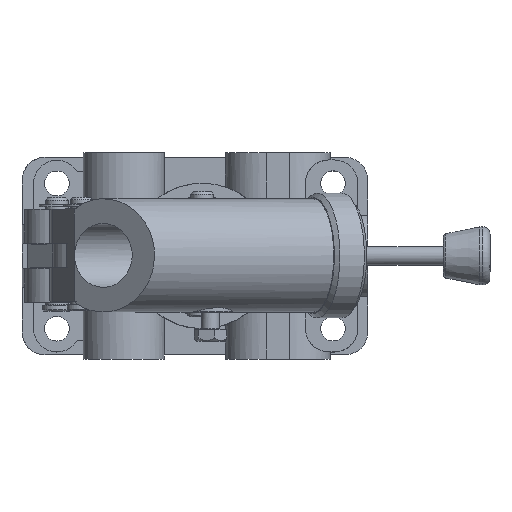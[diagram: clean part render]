
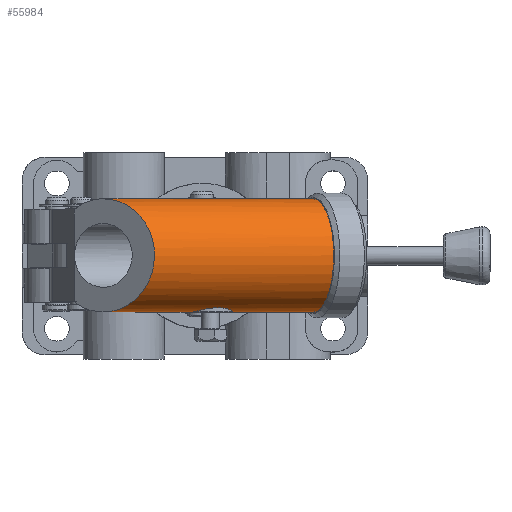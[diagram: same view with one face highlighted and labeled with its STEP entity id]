
A CAD part, top view. The second image highlights one B-rep face of the part: STEP entity #55984.
In plain terms, the highlighted cylindrical face has radius 19.48 mm (diameter 38.961 mm), a partial arc.
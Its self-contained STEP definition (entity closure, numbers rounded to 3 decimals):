
#98=ELLIPSE('',#59045,20.731,19.481);
#99=ELLIPSE('',#59050,20.731,19.481);
#100=ELLIPSE('',#59053,20.731,19.481);
#101=ELLIPSE('',#59056,22.494,19.481);
#102=ELLIPSE('',#59059,20.731,19.481);
#4833=LINE('',#82807,#9588);
#4834=LINE('',#82808,#9589);
#4838=LINE('',#82818,#9593);
#4839=LINE('',#82820,#9594);
#4841=LINE('',#82826,#9596);
#4842=LINE('',#82830,#9597);
#4845=LINE('',#82838,#9600);
#9588=VECTOR('',#69869,1000.);
#9589=VECTOR('',#69870,1000.);
#9593=VECTOR('',#69880,1000.);
#9594=VECTOR('',#69881,1000.);
#9596=VECTOR('',#69889,1000.);
#9597=VECTOR('',#69896,1000.);
#9600=VECTOR('',#69905,1000.);
#9696=B_SPLINE_CURVE_WITH_KNOTS('',3,(#82840,#82841,#82842,#82843,#82844,
#82845),.UNSPECIFIED.,.F.,.F.,(4,1,1,4),(0.039,0.043,
0.045,0.047),.UNSPECIFIED.);
#9697=B_SPLINE_CURVE_WITH_KNOTS('',3,(#82847,#82848,#82849,#82850,#82851),
 .UNSPECIFIED.,.F.,.F.,(4,1,4),(0.,0.004,0.009),
 .UNSPECIFIED.);
#9698=B_SPLINE_CURVE_WITH_KNOTS('',3,(#82855,#82856,#82857,#82858,#82859),
 .UNSPECIFIED.,.F.,.F.,(4,1,4),(0.032,0.035,0.039),
 .UNSPECIFIED.);
#9699=B_SPLINE_CURVE_WITH_KNOTS('',3,(#82861,#82862,#82863,#82864,#82865,
#82866,#82867),.UNSPECIFIED.,.F.,.F.,(4,1,1,1,4),(0.015,0.019,
0.024,0.028,0.032),.UNSPECIFIED.);
#9700=B_SPLINE_CURVE_WITH_KNOTS('',3,(#82869,#82870,#82871,#82872,#82873),
 .UNSPECIFIED.,.F.,.F.,(4,1,4),(0.009,0.012,
0.015),.UNSPECIFIED.);
#22994=ORIENTED_EDGE('',*,*,#28800,.F.);
#22995=ORIENTED_EDGE('',*,*,#28799,.T.);
#22996=ORIENTED_EDGE('',*,*,#28796,.T.);
#22997=ORIENTED_EDGE('',*,*,#28795,.T.);
#22998=ORIENTED_EDGE('',*,*,#28794,.F.);
#22999=ORIENTED_EDGE('',*,*,#28792,.T.);
#23000=ORIENTED_EDGE('',*,*,#28791,.F.);
#23001=ORIENTED_EDGE('',*,*,#28801,.F.);
#23002=ORIENTED_EDGE('',*,*,#28804,.F.);
#23003=ORIENTED_EDGE('',*,*,#28805,.F.);
#23004=ORIENTED_EDGE('',*,*,#28806,.F.);
#23005=ORIENTED_EDGE('',*,*,#28802,.F.);
#23006=ORIENTED_EDGE('',*,*,#28790,.F.);
#23007=ORIENTED_EDGE('',*,*,#28788,.F.);
#23008=ORIENTED_EDGE('',*,*,#28785,.T.);
#23009=ORIENTED_EDGE('',*,*,#28782,.T.);
#23010=ORIENTED_EDGE('',*,*,#28784,.T.);
#23011=ORIENTED_EDGE('',*,*,#28780,.F.);
#28780=EDGE_CURVE('',#32613,#32614,#98,.T.);
#28782=EDGE_CURVE('',#32615,#32616,#33503,.T.);
#28784=EDGE_CURVE('',#32616,#32614,#4833,.F.);
#28785=EDGE_CURVE('',#32617,#32615,#4834,.T.);
#28788=EDGE_CURVE('',#32617,#32618,#99,.T.);
#28790=EDGE_CURVE('',#32618,#32620,#4838,.F.);
#28791=EDGE_CURVE('',#32620,#32619,#4839,.F.);
#28792=EDGE_CURVE('',#32621,#32619,#100,.T.);
#28794=EDGE_CURVE('',#32621,#32594,#4841,.F.);
#28795=EDGE_CURVE('',#32595,#32594,#101,.T.);
#28796=EDGE_CURVE('',#32622,#32595,#4842,.F.);
#28799=EDGE_CURVE('',#32623,#32622,#102,.T.);
#28800=EDGE_CURVE('',#32623,#32613,#4845,.T.);
#28801=EDGE_CURVE('',#32624,#32620,#9696,.T.);
#28802=EDGE_CURVE('',#32620,#32625,#9697,.T.);
#28804=EDGE_CURVE('',#32626,#32624,#9698,.T.);
#28805=EDGE_CURVE('',#32627,#32626,#9699,.T.);
#28806=EDGE_CURVE('',#32625,#32627,#9700,.T.);
#32594=VERTEX_POINT('',#82738);
#32595=VERTEX_POINT('',#82740);
#32613=VERTEX_POINT('',#82797);
#32614=VERTEX_POINT('',#82799);
#32615=VERTEX_POINT('',#82803);
#32616=VERTEX_POINT('',#82804);
#32617=VERTEX_POINT('',#82809);
#32618=VERTEX_POINT('',#82813);
#32619=VERTEX_POINT('',#82817);
#32620=VERTEX_POINT('',#82819);
#32621=VERTEX_POINT('',#82823);
#32622=VERTEX_POINT('',#82831);
#32623=VERTEX_POINT('',#82835);
#32624=VERTEX_POINT('',#82846);
#32625=VERTEX_POINT('',#82852);
#32626=VERTEX_POINT('',#82860);
#32627=VERTEX_POINT('',#82868);
#33503=CIRCLE('',#59047,19.481);
#36295=EDGE_LOOP('',(#22994,#22995,#22996,#22997,#22998,#22999,#23000,#23001,
#23002,#23003,#23004,#23005,#23006,#23007,#23008,#23009,#23010,#23011));
#39112=FACE_BOUND('',#36295,.T.);
#39406=CYLINDRICAL_SURFACE('',#59063,19.481);
#55984=ADVANCED_FACE('',(#39112),#39406,.T.);
#59045=AXIS2_PLACEMENT_3D('',#82798,#69859,#69860);
#59047=AXIS2_PLACEMENT_3D('',#82802,#69864,#69865);
#59050=AXIS2_PLACEMENT_3D('',#82814,#69875,#69876);
#59053=AXIS2_PLACEMENT_3D('',#82822,#69884,#69885);
#59056=AXIS2_PLACEMENT_3D('',#82828,#69892,#69893);
#59059=AXIS2_PLACEMENT_3D('',#82836,#69901,#69902);
#59063=AXIS2_PLACEMENT_3D('',#82854,#69910,#69911);
#69859=DIRECTION('',(-0.751,0.,0.661));
#69860=DIRECTION('',(0.661,0.,0.751));
#69864=DIRECTION('',(-0.931,0.,0.364));
#69865=DIRECTION('',(0.364,0.,0.931));
#69869=DIRECTION('',(0.931,0.,-0.364));
#69870=DIRECTION('',(0.931,0.,-0.364));
#69875=DIRECTION('',(-0.751,0.,0.661));
#69876=DIRECTION('',(0.661,0.,0.751));
#69880=DIRECTION('',(0.931,0.,-0.364));
#69881=DIRECTION('',(0.931,0.,-0.364));
#69884=DIRECTION('',(-1.,0.,0.024));
#69885=DIRECTION('',(-0.024,0.,-1.));
#69889=DIRECTION('',(0.931,0.,-0.364));
#69892=DIRECTION('',(0.624,0.,-0.781));
#69893=DIRECTION('',(0.781,0.,0.624));
#69896=DIRECTION('',(0.931,0.,-0.364));
#69901=DIRECTION('',(-1.,0.,0.024));
#69902=DIRECTION('',(-0.024,0.,-1.));
#69905=DIRECTION('',(0.931,0.,-0.364));
#69910=DIRECTION('',(0.931,0.,-0.364));
#69911=DIRECTION('',(-0.364,0.,-0.931));
#82738=CARTESIAN_POINT('',(-44.048,-15.984,138.434));
#82740=CARTESIAN_POINT('',(-44.048,15.984,138.434));
#82797=CARTESIAN_POINT('',(34.381,17.982,111.667));
#82798=CARTESIAN_POINT('',(39.651,0.,117.651));
#82799=CARTESIAN_POINT('',(27.005,7.492,103.289));
#82802=CARTESIAN_POINT('',(38.159,0.,118.235));
#82803=CARTESIAN_POINT('',(31.608,-7.493,101.489));
#82804=CARTESIAN_POINT('',(31.608,7.492,101.489));
#82807=CARTESIAN_POINT('',(-46.542,7.492,132.058));
#82808=CARTESIAN_POINT('',(-46.542,-7.493,132.058));
#82809=CARTESIAN_POINT('',(27.005,-7.493,103.289));
#82813=CARTESIAN_POINT('',(34.381,-17.982,111.667));
#82814=CARTESIAN_POINT('',(39.651,0.,117.651));
#82817=CARTESIAN_POINT('',(-13.304,-17.982,130.32));
#82818=CARTESIAN_POINT('',(-42.721,-17.982,141.826));
#82819=CARTESIAN_POINT('',(0.076,-17.982,125.086));
#82820=CARTESIAN_POINT('',(-42.721,-17.982,141.826));
#82822=CARTESIAN_POINT('',(-13.114,0.,138.291));
#82823=CARTESIAN_POINT('',(-13.396,-15.984,126.444));
#82826=CARTESIAN_POINT('',(-44.048,-15.984,138.434));
#82828=CARTESIAN_POINT('',(-34.004,0.,146.462));
#82830=CARTESIAN_POINT('',(-44.048,15.984,138.434));
#82831=CARTESIAN_POINT('',(-13.396,15.984,126.444));
#82835=CARTESIAN_POINT('',(-13.304,17.982,130.32));
#82836=CARTESIAN_POINT('',(-13.114,0.,138.291));
#82838=CARTESIAN_POINT('',(-42.721,17.982,141.826));
#82840=CARTESIAN_POINT('',(-4.676,-19.231,131.651));
#82841=CARTESIAN_POINT('',(-4.598,-19.021,130.226));
#82842=CARTESIAN_POINT('',(-3.861,-18.538,128.145));
#82843=CARTESIAN_POINT('',(-1.851,-18.071,126.064));
#82844=CARTESIAN_POINT('',(-0.604,-17.982,125.352));
#82845=CARTESIAN_POINT('',(0.076,-17.982,125.086));
#82846=CARTESIAN_POINT('',(-4.676,-19.231,131.651));
#82847=CARTESIAN_POINT('',(0.076,-17.982,125.086));
#82848=CARTESIAN_POINT('',(1.434,-17.982,124.555));
#82849=CARTESIAN_POINT('',(4.388,-18.372,124.32));
#82850=CARTESIAN_POINT('',(7.001,-19.022,125.696));
#82851=CARTESIAN_POINT('',(8.021,-19.231,126.685));
#82852=CARTESIAN_POINT('',(8.021,-19.231,126.685));
#82854=CARTESIAN_POINT('',(-39.991,0.,148.804));
#82855=CARTESIAN_POINT('',(-2.411,-19.231,137.443));
#82856=CARTESIAN_POINT('',(-3.178,-19.388,136.699));
#82857=CARTESIAN_POINT('',(-4.389,-19.574,134.882));
#82858=CARTESIAN_POINT('',(-4.735,-19.387,132.71));
#82859=CARTESIAN_POINT('',(-4.676,-19.231,131.651));
#82860=CARTESIAN_POINT('',(-2.411,-19.231,137.443));
#82861=CARTESIAN_POINT('',(10.286,-19.231,132.476));
#82862=CARTESIAN_POINT('',(10.207,-19.02,133.91));
#82863=CARTESIAN_POINT('',(9.235,-18.374,136.662));
#82864=CARTESIAN_POINT('',(5.699,-17.786,139.443));
#82865=CARTESIAN_POINT('',(1.201,-18.373,139.806));
#82866=CARTESIAN_POINT('',(-1.378,-19.019,138.444));
#82867=CARTESIAN_POINT('',(-2.411,-19.231,137.443));
#82868=CARTESIAN_POINT('',(10.286,-19.231,132.476));
#82869=CARTESIAN_POINT('',(8.021,-19.231,126.685));
#82870=CARTESIAN_POINT('',(8.778,-19.386,127.419));
#82871=CARTESIAN_POINT('',(10.,-19.574,129.244));
#82872=CARTESIAN_POINT('',(10.345,-19.388,131.411));
#82873=CARTESIAN_POINT('',(10.286,-19.231,132.476));
